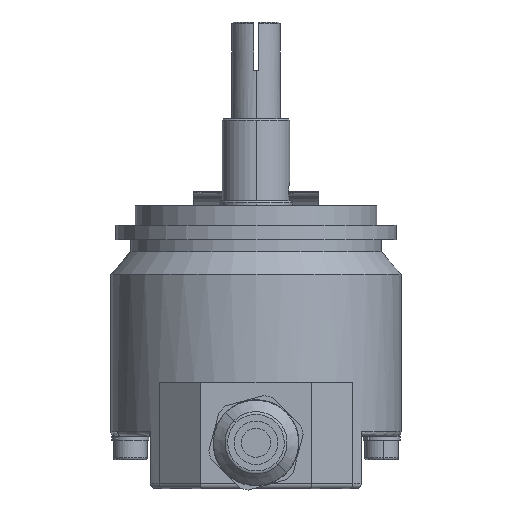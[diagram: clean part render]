
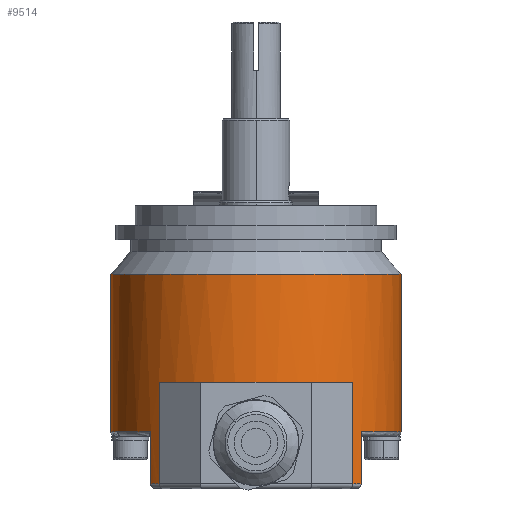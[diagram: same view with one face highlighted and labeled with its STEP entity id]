
A CAD part, front view. The second image highlights one B-rep face of the part: STEP entity #9514.
In plain terms, the highlighted cylindrical face has radius 30 mm (diameter 60 mm), a partial arc.
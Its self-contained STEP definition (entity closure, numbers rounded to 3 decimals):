
#286 = VERTEX_POINT ( 'NONE', #6217 ) ;
#383 = VERTEX_POINT ( 'NONE', #6402 ) ;
#557 = EDGE_CURVE ( 'NONE', #13722, #286, #17254, .T. ) ;
#709 = DIRECTION ( 'NONE',  ( 0., 0., -1. ) ) ;
#852 = ORIENTED_EDGE ( 'NONE', *, *, #15630, .T. ) ;
#867 = CARTESIAN_POINT ( 'NONE',  ( -20.053, -22.313, -36.5 ) ) ;
#886 = CARTESIAN_POINT ( 'NONE',  ( 0., 0., -36.5 ) ) ;
#950 = EDGE_CURVE ( 'NONE', #10448, #383, #5480, .T. ) ;
#1254 = ORIENTED_EDGE ( 'NONE', *, *, #8730, .T. ) ;
#1289 = DIRECTION ( 'NONE',  ( 0., 0., 1. ) ) ;
#1376 = DIRECTION ( 'NONE',  ( 1., 0., 0. ) ) ;
#1775 = CARTESIAN_POINT ( 'NONE',  ( 20.053, -22.313, -57.5 ) ) ;
#1793 = VERTEX_POINT ( 'NONE', #12541 ) ;
#2191 = EDGE_CURVE ( 'NONE', #14739, #8102, #16541, .T. ) ;
#2617 = AXIS2_PLACEMENT_3D ( 'NONE', #886, #8738, #3306 ) ;
#2677 = AXIS2_PLACEMENT_3D ( 'NONE', #10333, #14556, #13292 ) ;
#2850 = ORIENTED_EDGE ( 'NONE', *, *, #10498, .T. ) ;
#2973 = EDGE_CURVE ( 'NONE', #13722, #1793, #17380, .T. ) ;
#3171 = DIRECTION ( 'NONE',  ( 0., 0., 1. ) ) ;
#3306 = DIRECTION ( 'NONE',  ( 1., 0., 0. ) ) ;
#3510 = DIRECTION ( 'NONE',  ( 0., 0., 1. ) ) ;
#3734 = LINE ( 'NONE', #10412, #17212 ) ;
#3782 = CARTESIAN_POINT ( 'NONE',  ( 0., 0., -36. ) ) ;
#3862 = CARTESIAN_POINT ( 'NONE',  ( -30., 0., -46.7 ) ) ;
#4100 = CIRCLE ( 'NONE', #2677, 30. ) ;
#4223 = EDGE_CURVE ( 'NONE', #14476, #7259, #15502, .T. ) ;
#4350 = CARTESIAN_POINT ( 'NONE',  ( 0., 0., -36.5 ) ) ;
#4422 = CIRCLE ( 'NONE', #10394, 30. ) ;
#4642 = DIRECTION ( 'NONE',  ( -1., 0., 0. ) ) ;
#5423 = ORIENTED_EDGE ( 'NONE', *, *, #4223, .F. ) ;
#5477 = AXIS2_PLACEMENT_3D ( 'NONE', #3782, #1289, #10812 ) ;
#5480 = LINE ( 'NONE', #16475, #16105 ) ;
#5727 = DIRECTION ( 'NONE',  ( 0., 0., 1. ) ) ;
#5749 = CARTESIAN_POINT ( 'NONE',  ( -30., 0., -36. ) ) ;
#5975 = CARTESIAN_POINT ( 'NONE',  ( -21.75, -20.662, -57.5 ) ) ;
#6217 = CARTESIAN_POINT ( 'NONE',  ( -21.75, -20.662, -46.7 ) ) ;
#6402 = CARTESIAN_POINT ( 'NONE',  ( 21.75, -20.662, -57.5 ) ) ;
#6445 = FACE_OUTER_BOUND ( 'NONE', #7843, .T. ) ;
#6820 = DIRECTION ( 'NONE',  ( 0., 0., -1. ) ) ;
#6979 = CARTESIAN_POINT ( 'NONE',  ( 30., 0., -36. ) ) ;
#7259 = VERTEX_POINT ( 'NONE', #13787 ) ;
#7531 = EDGE_CURVE ( 'NONE', #10448, #14739, #8496, .T. ) ;
#7843 = EDGE_LOOP ( 'NONE', ( #11776, #8260, #852, #2850, #1254, #11162, #5423, #13260, #15478, #17480, #16249, #11533, #12242 ) ) ;
#7962 = VERTEX_POINT ( 'NONE', #867 ) ;
#8102 = VERTEX_POINT ( 'NONE', #15154 ) ;
#8260 = ORIENTED_EDGE ( 'NONE', *, *, #557, .T. ) ;
#8276 = CARTESIAN_POINT ( 'NONE',  ( 0., 0., -46.7 ) ) ;
#8419 = CARTESIAN_POINT ( 'NONE',  ( 0., 0., -14.2 ) ) ;
#8496 = CIRCLE ( 'NONE', #9072, 30. ) ;
#8591 = CARTESIAN_POINT ( 'NONE',  ( -20.053, -22.313, -79.976 ) ) ;
#8730 = EDGE_CURVE ( 'NONE', #10202, #7962, #15565, .T. ) ;
#8738 = DIRECTION ( 'NONE',  ( 0., 0., 1. ) ) ;
#9072 = AXIS2_PLACEMENT_3D ( 'NONE', #13214, #11176, #4642 ) ;
#9239 = AXIS2_PLACEMENT_3D ( 'NONE', #8276, #13736, #12390 ) ;
#9514 = ADVANCED_FACE ( 'NONE', ( #6445 ), #10900, .T. ) ;
#9528 = CARTESIAN_POINT ( 'NONE',  ( 21.75, -20.662, -46.7 ) ) ;
#9533 = DIRECTION ( 'NONE',  ( 0., 0., -1. ) ) ;
#10202 = VERTEX_POINT ( 'NONE', #15807 ) ;
#10333 = CARTESIAN_POINT ( 'NONE',  ( 0., 0., -57.5 ) ) ;
#10394 = AXIS2_PLACEMENT_3D ( 'NONE', #8419, #12259, #1376 ) ;
#10412 = CARTESIAN_POINT ( 'NONE',  ( -21.75, -20.662, -36. ) ) ;
#10448 = VERTEX_POINT ( 'NONE', #9528 ) ;
#10498 = EDGE_CURVE ( 'NONE', #15230, #10202, #11114, .T. ) ;
#10561 = VERTEX_POINT ( 'NONE', #1775 ) ;
#10762 = CARTESIAN_POINT ( 'NONE',  ( 30., 0., -46.7 ) ) ;
#10812 = DIRECTION ( 'NONE',  ( 1., 0., 0. ) ) ;
#10900 = CYLINDRICAL_SURFACE ( 'NONE', #5477, 30. ) ;
#10956 = DIRECTION ( 'NONE',  ( 1., 0., 0. ) ) ;
#11114 = CIRCLE ( 'NONE', #13702, 30. ) ;
#11162 = ORIENTED_EDGE ( 'NONE', *, *, #11330, .T. ) ;
#11176 = DIRECTION ( 'NONE',  ( 0., 0., 1. ) ) ;
#11330 = EDGE_CURVE ( 'NONE', #7962, #7259, #11434, .T. ) ;
#11434 = CIRCLE ( 'NONE', #2617, 30. ) ;
#11533 = ORIENTED_EDGE ( 'NONE', *, *, #2191, .T. ) ;
#11583 = CARTESIAN_POINT ( 'NONE',  ( 20.053, -22.313, -36.5 ) ) ;
#11776 = ORIENTED_EDGE ( 'NONE', *, *, #2973, .F. ) ;
#12242 = ORIENTED_EDGE ( 'NONE', *, *, #12439, .F. ) ;
#12259 = DIRECTION ( 'NONE',  ( 0., 0., 1. ) ) ;
#12390 = DIRECTION ( 'NONE',  ( -1., 0., 0. ) ) ;
#12439 = EDGE_CURVE ( 'NONE', #1793, #8102, #4422, .T. ) ;
#12541 = CARTESIAN_POINT ( 'NONE',  ( -30., 0., -14.2 ) ) ;
#12635 = CARTESIAN_POINT ( 'NONE',  ( 20.053, -22.313, -79.976 ) ) ;
#12657 = AXIS2_PLACEMENT_3D ( 'NONE', #4350, #9533, #10956 ) ;
#13214 = CARTESIAN_POINT ( 'NONE',  ( 0., 0., -46.7 ) ) ;
#13260 = ORIENTED_EDGE ( 'NONE', *, *, #16357, .F. ) ;
#13292 = DIRECTION ( 'NONE',  ( 1., 0., 0. ) ) ;
#13378 = VECTOR ( 'NONE', #16477, 1000. ) ;
#13452 = VECTOR ( 'NONE', #3510, 1000. ) ;
#13702 = AXIS2_PLACEMENT_3D ( 'NONE', #16589, #16325, #17672 ) ;
#13722 = VERTEX_POINT ( 'NONE', #3862 ) ;
#13736 = DIRECTION ( 'NONE',  ( 0., 0., 1. ) ) ;
#13775 = VECTOR ( 'NONE', #3171, 1000. ) ;
#13787 = CARTESIAN_POINT ( 'NONE',  ( 0., -30., -36.5 ) ) ;
#14476 = VERTEX_POINT ( 'NONE', #11583 ) ;
#14556 = DIRECTION ( 'NONE',  ( 0., 0., 1. ) ) ;
#14739 = VERTEX_POINT ( 'NONE', #10762 ) ;
#15142 = LINE ( 'NONE', #12635, #13775 ) ;
#15154 = CARTESIAN_POINT ( 'NONE',  ( 30., 0., -14.2 ) ) ;
#15230 = VERTEX_POINT ( 'NONE', #5975 ) ;
#15478 = ORIENTED_EDGE ( 'NONE', *, *, #17004, .T. ) ;
#15502 = CIRCLE ( 'NONE', #12657, 30. ) ;
#15565 = LINE ( 'NONE', #8591, #13452 ) ;
#15630 = EDGE_CURVE ( 'NONE', #286, #15230, #3734, .T. ) ;
#15640 = VECTOR ( 'NONE', #5727, 1000. ) ;
#15807 = CARTESIAN_POINT ( 'NONE',  ( -20.053, -22.313, -57.5 ) ) ;
#16105 = VECTOR ( 'NONE', #6820, 1000. ) ;
#16249 = ORIENTED_EDGE ( 'NONE', *, *, #7531, .T. ) ;
#16325 = DIRECTION ( 'NONE',  ( 0., 0., 1. ) ) ;
#16357 = EDGE_CURVE ( 'NONE', #10561, #14476, #15142, .T. ) ;
#16475 = CARTESIAN_POINT ( 'NONE',  ( 21.75, -20.662, -36. ) ) ;
#16477 = DIRECTION ( 'NONE',  ( 0., 0., 1. ) ) ;
#16541 = LINE ( 'NONE', #6979, #15640 ) ;
#16589 = CARTESIAN_POINT ( 'NONE',  ( 0., 0., -57.5 ) ) ;
#17004 = EDGE_CURVE ( 'NONE', #10561, #383, #4100, .T. ) ;
#17212 = VECTOR ( 'NONE', #709, 1000. ) ;
#17254 = CIRCLE ( 'NONE', #9239, 30. ) ;
#17380 = LINE ( 'NONE', #5749, #13378 ) ;
#17480 = ORIENTED_EDGE ( 'NONE', *, *, #950, .F. ) ;
#17672 = DIRECTION ( 'NONE',  ( 1., 0., 0. ) ) ;
